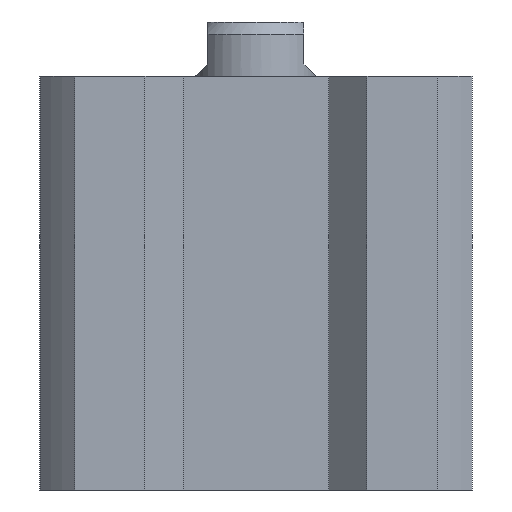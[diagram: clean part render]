
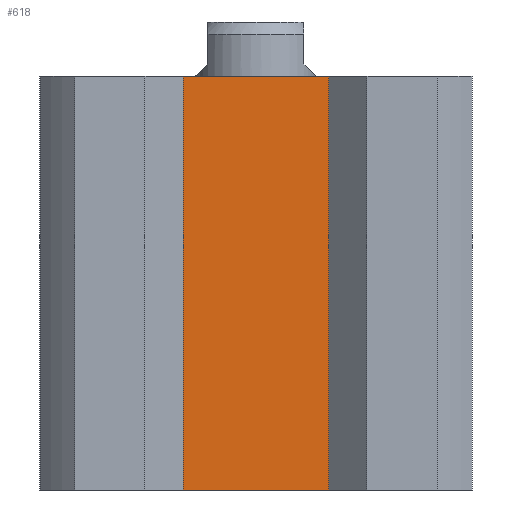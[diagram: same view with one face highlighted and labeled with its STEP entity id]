
A CAD part, front view. The second image highlights one B-rep face of the part: STEP entity #618.
In plain terms, the highlighted planar face has unit normal (0, -1, 0).
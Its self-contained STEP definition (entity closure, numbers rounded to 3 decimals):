
#152 = CARTESIAN_POINT ( 'NONE',  ( 6.05, -14.8, 17.25 ) ) ;
#236 = ORIENTED_EDGE ( 'NONE', *, *, #4856, .T. ) ;
#248 = CARTESIAN_POINT ( 'NONE',  ( -6.05, -14.8, 17.25 ) ) ;
#397 = EDGE_CURVE ( 'NONE', #4145, #1813, #721, .T. ) ;
#618 = ADVANCED_FACE ( 'NONE', ( #3307 ), #2951, .F. ) ;
#721 = LINE ( 'NONE', #2681, #4400 ) ;
#1080 = VECTOR ( 'NONE', #1801, 1000. ) ;
#1330 = DIRECTION ( 'NONE',  ( 0., 1., 0. ) ) ;
#1331 = VERTEX_POINT ( 'NONE', #1482 ) ;
#1482 = CARTESIAN_POINT ( 'NONE',  ( -6.05, -14.8, 17.25 ) ) ;
#1560 = CARTESIAN_POINT ( 'NONE',  ( 6.05, -14.8, 17.25 ) ) ;
#1727 = CARTESIAN_POINT ( 'NONE',  ( -6.05, -14.8, -17.25 ) ) ;
#1748 = EDGE_CURVE ( 'NONE', #1331, #4672, #3944, .T. ) ;
#1801 = DIRECTION ( 'NONE',  ( 0., 0., -1. ) ) ;
#1813 = VERTEX_POINT ( 'NONE', #5080 ) ;
#2681 = CARTESIAN_POINT ( 'NONE',  ( 6.05, -14.8, -17.25 ) ) ;
#2712 = ORIENTED_EDGE ( 'NONE', *, *, #3193, .F. ) ;
#2721 = EDGE_LOOP ( 'NONE', ( #2712, #2944, #236, #4381 ) ) ;
#2863 = LINE ( 'NONE', #4867, #3186 ) ;
#2921 = DIRECTION ( 'NONE',  ( -1., 0., 0. ) ) ;
#2944 = ORIENTED_EDGE ( 'NONE', *, *, #1748, .F. ) ;
#2951 = PLANE ( 'NONE',  #5072 ) ;
#3088 = VECTOR ( 'NONE', #3527, 1000. ) ;
#3186 = VECTOR ( 'NONE', #3707, 1000. ) ;
#3193 = EDGE_CURVE ( 'NONE', #4672, #1813, #2863, .T. ) ;
#3307 = FACE_OUTER_BOUND ( 'NONE', #2721, .T. ) ;
#3356 = LINE ( 'NONE', #248, #1080 ) ;
#3527 = DIRECTION ( 'NONE',  ( 1., 0., 0. ) ) ;
#3707 = DIRECTION ( 'NONE',  ( 0., 0., -1. ) ) ;
#3867 = DIRECTION ( 'NONE',  ( 1., 0., 0. ) ) ;
#3944 = LINE ( 'NONE', #1560, #3088 ) ;
#4145 = VERTEX_POINT ( 'NONE', #1727 ) ;
#4381 = ORIENTED_EDGE ( 'NONE', *, *, #397, .T. ) ;
#4400 = VECTOR ( 'NONE', #3867, 1000. ) ;
#4672 = VERTEX_POINT ( 'NONE', #152 ) ;
#4856 = EDGE_CURVE ( 'NONE', #1331, #4145, #3356, .T. ) ;
#4867 = CARTESIAN_POINT ( 'NONE',  ( 6.05, -14.8, 17.25 ) ) ;
#4883 = CARTESIAN_POINT ( 'NONE',  ( 6.05, -14.8, 17.25 ) ) ;
#5072 = AXIS2_PLACEMENT_3D ( 'NONE', #4883, #1330, #2921 ) ;
#5080 = CARTESIAN_POINT ( 'NONE',  ( 6.05, -14.8, -17.25 ) ) ;
